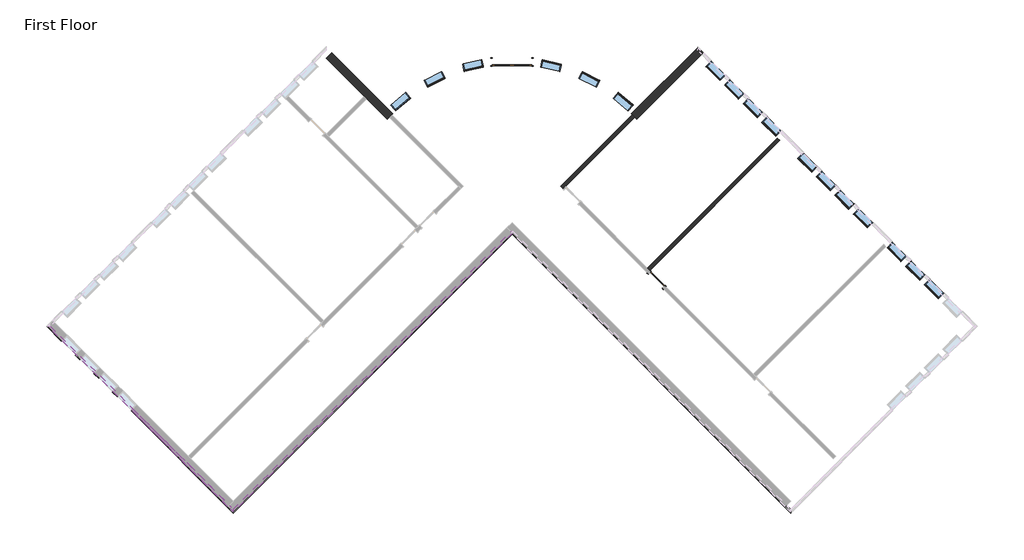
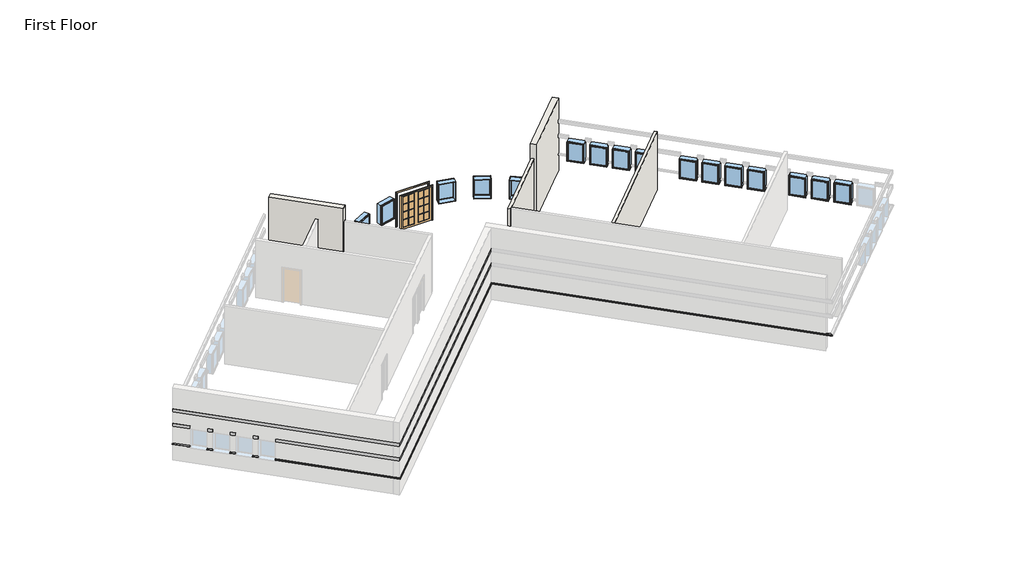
# One storey, part 2 of 3: 17 windows, 7 proxies, 4 walls, 2 doors.
"""IFC4 building model written with IfcOpenShell, lengths in millimetres."""

from ifc_helpers import new_model, si_unit, frame, origin, origin_with_axes, place, context, project, spatial, polyline, circle_curve, outline, extrude, faceted_brep, transform, mapped, element, save
from ifc_brep_helpers import plane_surface, cylinder_surface, revolved_surface, advanced_brep
from components import door_0a477ef8, door_5f5b55da, window_15c49d37, window_0e2fc6ce

model = new_model("IFC4")

# Units and contexts
model_context = context("Model", 3, world=origin())
ifc_project = project(units=[si_unit("LENGTHUNIT", "METRE", prefix="MILLI")], contexts=[model_context])

# Site, building, storey
site = spatial("IfcSite", under=ifc_project)
building = spatial("IfcBuilding", under=site)
storey = spatial("IfcBuildingStorey", under=building, Name="First Floor", Elevation=0.0)

# Proxies
placement = place(None, origin())
element("IfcBuildingElementProxy", 1, Name="Wall Sweeps", at=placement, inside=storey, context=model_context, shape_type="Brep", body=[
    faceted_brep([(10063.54045, -9848.8216726, 1085.85), (10063.54045, -9979.0353863, 1085.85), (10063.54045, -10028.426795, 1041.4), (10063.54045, -10028.426795, 1016.0), (10063.54045, -9848.8216726, 1016.0), (-2868.0283643, 3082.7471418, 1085.85), (-2868.0283643, 3082.7471418, 1016.0), (-2868.0283643, 2903.1420194, 1016.0), (-2868.0283643, 2903.1420194, 1041.4), (-2868.0283643, 2952.533428, 1085.85), (9879.4451996, -9664.7264221, 1085.85), (9879.4451996, -9664.7264221, 1016.0)], [[[0, 1, 2, 3, 4]], [[5, 6, 7, 8, 9]], [[1, 0, 10, 5, 9]], [[2, 1, 9, 8]], [[3, 2, 8, 7]], [[4, 3, 7, 6, 11]], [[0, 4, 11, 6, 5, 10]]]),
])
element("IfcBuildingElementProxy", 2, Name="Wall Sweeps", at=placement, inside=storey, context=model_context, shape_type="Brep", body=[
    faceted_brep([(-2868.0283643, 3082.7471418, 1085.85), (-2868.0283643, 2952.533428, 1085.85), (-2868.0283643, 2903.1420194, 1041.4), (-2868.0283643, 2903.1420194, 1016.0), (-2868.0283643, 3082.7471418, 1016.0), (-15799.5971786, -9848.8216726, 1085.85), (-15799.5971786, -9848.8216726, 1016.0), (-15799.5971786, -10028.426795, 1016.0), (-15799.5971786, -10028.426795, 1041.4), (-15799.5971786, -9979.0353863, 1085.85), (-2933.1352212, 3017.6402849, 1085.85), (-2933.1352212, 3017.6402849, 1016.0)], [[[0, 1, 2, 3, 4]], [[5, 6, 7, 8, 9]], [[1, 0, 10, 5, 9]], [[2, 1, 9, 8]], [[3, 2, 8, 7]], [[4, 3, 7, 6, 11]], [[0, 4, 11, 6, 5, 10]]]),
])
element("IfcBuildingElementProxy", 3, Name="Wall Sweeps", at=placement, inside=storey, context=model_context, shape_type="Brep", body=[
    faceted_brep([(-2868.0283643, 2952.533428, 2336.8), (-2868.0283643, 2952.533428, 2133.6), (-2868.0283643, 3082.7471418, 2133.6), (-2868.0283643, 3082.7471418, 2336.8), (-15799.5971786, -9979.0353863, 2336.8), (-15799.5971786, -9848.8216726, 2336.8), (-15799.5971786, -9848.8216726, 2133.6), (-15799.5971786, -9979.0353863, 2133.6), (-2933.1352212, 3017.6402849, 2133.6), (-2933.1352212, 3017.6402849, 2336.8)], [[[0, 1, 2, 3]], [[4, 5, 6, 7]], [[1, 0, 4, 7]], [[2, 1, 7, 6, 8]], [[3, 2, 8, 6, 5, 9]], [[0, 3, 9, 5, 4]]]),
])
element("IfcBuildingElementProxy", 4, Name="Wall Sweeps", at=placement, inside=storey, context=model_context, shape_type="Brep", body=[
    faceted_brep([(-2868.0283643, 2952.533428, 3251.2), (-2868.0283643, 2952.533428, 3048.0), (-2868.0283643, 3082.7471418, 3048.0), (-2868.0283643, 3082.7471418, 3251.2), (-15799.5971786, -9979.0353863, 3251.2), (-15799.5971786, -9848.8216726, 3251.2), (-15799.5971786, -9848.8216726, 3048.0), (-15799.5971786, -9979.0353863, 3048.0), (-2933.1352212, 3017.6402849, 3048.0), (-2933.1352212, 3017.6402849, 3251.2)], [[[0, 1, 2, 3]], [[4, 5, 6, 7]], [[1, 0, 4, 7]], [[2, 1, 7, 6, 8]], [[3, 2, 8, 6, 5, 9]], [[0, 3, 9, 5, 4]]]),
])
element("IfcBuildingElementProxy", 5, Name="Wall Sweeps", at=placement, inside=storey, context=model_context, shape_type="Brep", body=[
    faceted_brep([(-15799.5971786, -9848.8216726, 1085.85), (-15799.5971786, -9979.0353863, 1085.85), (-15799.5971786, -10028.426795, 1041.4), (-15799.5971786, -10028.426795, 1016.0), (-15799.5971786, -9848.8216726, 1016.0), (-20459.2275735, -5189.1912777, 1085.85), (-20459.2275735, -5189.1912777, 1016.0), (-20524.3344303, -5254.2981346, 1016.0), (-20549.0301347, -5278.993839, 1016.0), (-20549.0301347, -5278.993839, 1041.4), (-20524.3344303, -5254.2981346, 1085.85), (-15983.6924291, -9664.7264221, 1085.85), (-15983.6924291, -9664.7264221, 1016.0)], [[[0, 1, 2, 3, 4]], [[5, 6, 7, 8, 9, 10]], [[1, 0, 11, 5, 10]], [[2, 1, 10, 9]], [[3, 2, 9, 8]], [[4, 3, 8, 7, 6, 12]], [[0, 4, 12, 6, 5, 11]]]),
    faceted_brep([(-21105.8060142, -4542.612837, 1085.85), (-21170.9128711, -4607.7196939, 1085.85), (-21195.6085754, -4632.4153982, 1041.4), (-21195.6085754, -4632.4153982, 1016.0), (-21170.9128711, -4607.7196939, 1016.0), (-21105.8060142, -4542.612837, 1016.0), (-21321.3321611, -4327.0866901, 1085.85), (-21321.3321611, -4327.0866901, 1016.0), (-21386.439018, -4392.193547, 1016.0), (-21411.1347223, -4416.8892513, 1016.0), (-21411.1347223, -4416.8892513, 1041.4), (-21386.439018, -4392.193547, 1085.85)], [[[0, 1, 2, 3, 4, 5]], [[6, 7, 8, 9, 10, 11]], [[1, 0, 6, 11]], [[2, 1, 11, 10]], [[3, 2, 10, 9]], [[5, 4, 3, 9, 8, 7]], [[0, 5, 7, 6]]]),
    faceted_brep([(-21967.9106018, -3680.5082494, 1085.85), (-22033.0174587, -3745.6151063, 1085.85), (-22057.713163, -3770.3108106, 1041.4), (-22057.713163, -3770.3108106, 1016.0), (-22033.0174587, -3745.6151063, 1016.0), (-21967.9106018, -3680.5082494, 1016.0), (-22183.4367487, -3464.9821025, 1085.85), (-22183.4367487, -3464.9821025, 1016.0), (-22248.5436056, -3530.0889594, 1016.0), (-22273.2393099, -3554.7846637, 1016.0), (-22273.2393099, -3554.7846637, 1041.4), (-22248.5436056, -3530.0889594, 1085.85)], [[[0, 1, 2, 3, 4, 5]], [[6, 7, 8, 9, 10, 11]], [[1, 0, 6, 11]], [[2, 1, 11, 10]], [[3, 2, 10, 9]], [[5, 4, 3, 9, 8, 7]], [[0, 5, 7, 6]]]),
    faceted_brep([(-22830.0151894, -2818.4036618, 1085.85), (-22895.1220463, -2883.5105187, 1085.85), (-22919.8177506, -2908.206223, 1041.4), (-22919.8177506, -2908.206223, 1016.0), (-22895.1220463, -2883.5105187, 1016.0), (-22830.0151894, -2818.4036618, 1016.0), (-23045.5413363, -2602.8775149, 1085.85), (-23045.5413363, -2602.8775149, 1016.0), (-23110.6481932, -2667.9843718, 1016.0), (-23135.3438975, -2692.6800761, 1016.0), (-23135.3438975, -2692.6800761, 1041.4), (-23110.6481932, -2667.9843718, 1085.85)], [[[0, 1, 2, 3, 4, 5]], [[6, 7, 8, 9, 10, 11]], [[1, 0, 6, 11]], [[2, 1, 11, 10]], [[3, 2, 10, 9]], [[5, 4, 3, 9, 8, 7]], [[0, 5, 7, 6]]]),
    faceted_brep([(-23692.119777, -1956.2990742, 1085.85), (-23757.2266339, -2021.405931, 1085.85), (-23781.9223383, -2046.1016354, 1041.4), (-23781.9223383, -2046.1016354, 1016.0), (-23757.2266339, -2021.405931, 1016.0), (-23692.119777, -1956.2990742, 1016.0), (-24290.4293411, -1357.9895101, 1085.85), (-24290.4293411, -1357.9895101, 1016.0), (-24470.0344635, -1357.9895101, 1016.0), (-24470.0344635, -1357.9895101, 1041.4), (-24420.6430549, -1357.9895101, 1085.85)], [[[0, 1, 2, 3, 4, 5]], [[6, 7, 8, 9, 10]], [[1, 0, 6, 10]], [[2, 1, 10, 9]], [[3, 2, 9, 8]], [[5, 4, 3, 8, 7]], [[0, 5, 7, 6]]]),
])
element("IfcBuildingElementProxy", 6, Name="Wall Sweeps", at=placement, inside=storey, context=model_context, shape_type="Brep", body=[
    faceted_brep([(-15799.5971786, -9979.0353863, 2336.8), (-15799.5971786, -9979.0353863, 2133.6), (-15799.5971786, -9848.8216726, 2133.6), (-15799.5971786, -9848.8216726, 2336.8), (-20524.3344303, -5254.2981346, 2336.8), (-20459.2275735, -5189.1912777, 2336.8), (-20459.2275735, -5189.1912777, 2133.6), (-20524.3344303, -5254.2981346, 2133.6), (-16048.799286, -9729.833279, 2336.8), (-16048.799286, -9729.833279, 2133.6), (-15983.6924291, -9664.7264221, 2133.6), (-15983.6924291, -9664.7264221, 2336.8)], [[[0, 1, 2, 3]], [[4, 5, 6, 7]], [[1, 0, 8, 4, 7, 9]], [[2, 1, 9, 7, 6, 10]], [[3, 2, 10, 6, 5, 11]], [[0, 3, 11, 5, 4, 8]]]),
    faceted_brep([(-21170.9128711, -4607.7196939, 2336.8), (-21170.9128711, -4607.7196939, 2133.6), (-21105.8060142, -4542.612837, 2133.6), (-21105.8060142, -4542.612837, 2336.8), (-21386.439018, -4392.193547, 2336.8), (-21321.3321611, -4327.0866901, 2336.8), (-21321.3321611, -4327.0866901, 2133.6), (-21386.439018, -4392.193547, 2133.6)], [[[0, 1, 2, 3]], [[4, 5, 6, 7]], [[1, 0, 4, 7]], [[2, 1, 7, 6]], [[3, 2, 6, 5]], [[0, 3, 5, 4]]]),
    faceted_brep([(-22033.0174587, -3745.6151063, 2336.8), (-22033.0174587, -3745.6151063, 2133.6), (-21967.9106018, -3680.5082494, 2133.6), (-21967.9106018, -3680.5082494, 2336.8), (-22248.5436056, -3530.0889594, 2336.8), (-22183.4367487, -3464.9821025, 2336.8), (-22183.4367487, -3464.9821025, 2133.6), (-22248.5436056, -3530.0889594, 2133.6)], [[[0, 1, 2, 3]], [[4, 5, 6, 7]], [[1, 0, 4, 7]], [[2, 1, 7, 6]], [[3, 2, 6, 5]], [[0, 3, 5, 4]]]),
    faceted_brep([(-22895.1220463, -2883.5105187, 2336.8), (-22895.1220463, -2883.5105187, 2133.6), (-22830.0151894, -2818.4036618, 2133.6), (-22830.0151894, -2818.4036618, 2336.8), (-23110.6481932, -2667.9843718, 2336.8), (-23045.5413363, -2602.8775149, 2336.8), (-23045.5413363, -2602.8775149, 2133.6), (-23110.6481932, -2667.9843718, 2133.6)], [[[0, 1, 2, 3]], [[4, 5, 6, 7]], [[1, 0, 4, 7]], [[2, 1, 7, 6]], [[3, 2, 6, 5]], [[0, 3, 5, 4]]]),
    faceted_brep([(-23757.2266339, -2021.405931, 2336.8), (-23757.2266339, -2021.405931, 2133.6), (-23692.119777, -1956.2990742, 2133.6), (-23692.119777, -1956.2990742, 2336.8), (-24420.6430549, -1357.9895101, 2336.8), (-24290.4293411, -1357.9895101, 2336.8), (-24290.4293411, -1357.9895101, 2133.6), (-24420.6430549, -1357.9895101, 2133.6)], [[[0, 1, 2, 3]], [[4, 5, 6, 7]], [[1, 0, 4, 7]], [[2, 1, 7, 6]], [[3, 2, 6, 5]], [[0, 3, 5, 4]]]),
])
element("IfcBuildingElementProxy", 7, Name="Wall Sweeps", at=placement, inside=storey, context=model_context, shape_type="Brep", body=[
    faceted_brep([(-15799.5971786, -9979.0353863, 3251.2), (-15799.5971786, -9979.0353863, 3048.0), (-15799.5971786, -9848.8216726, 3048.0), (-15799.5971786, -9848.8216726, 3251.2), (-24420.6430549, -1357.9895101, 3251.2), (-24290.4293411, -1357.9895101, 3251.2), (-24290.4293411, -1357.9895101, 3048.0), (-24420.6430549, -1357.9895101, 3048.0), (-16048.799286, -9729.833279, 3251.2), (-16048.799286, -9729.833279, 3048.0), (-15983.6924291, -9664.7264221, 3048.0), (-15983.6924291, -9664.7264221, 3251.2)], [[[0, 1, 2, 3]], [[4, 5, 6, 7]], [[1, 0, 8, 4, 7, 9]], [[2, 1, 9, 7, 6, 10]], [[3, 2, 10, 6, 5, 11]], [[0, 3, 11, 5, 4, 8]]]),
])

# Doors
door_shape = door_0a477ef8(model_context)
element("IfcDoor", 8, ObjectType="Double-Glass 2 : 72\" x 84\"", at=placement, inside=storey, context=model_context, shape_type="MappedRepresentation", body=[
    mapped(door_shape, transform((-2868.7603243, 10905.5717204, 0.0), x_axis=(-0.9999999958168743, -9.146721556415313e-05, 0.0), y_axis=(9.146721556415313e-05, -0.9999999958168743, 0.0), z_axis=(0.0, 0.0, 1.0))),
])
door_2_shape = door_5f5b55da(model_context)
element("IfcDoor", 9, ObjectType="Single-Glass 1 : 36\" x 84\"", at=placement, inside=storey, context=model_context, shape_type="MappedRepresentation", body=[
    mapped(door_2_shape, transform((3846.9581502, 797.271959, 0.0), x_axis=(-0.7071067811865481, 0.7071067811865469, 0.0), y_axis=(-0.7071067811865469, -0.7071067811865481, 0.0), z_axis=(0.0, 0.0, 1.0))),
])

# Walls
element("IfcWall", 10, ObjectType="Exterior - Split Face and CMU on Mtl. Stud", at=placement, inside=storey, context=model_context, shape_type="AdvancedBrep", body=[
    advanced_brep(
    [(2921.9555443, 8244.1131219, 4572.0), (5753.0175119, 11075.1750895, 4572.0), (6002.2196193, 11324.3771969, 4572.0), (5753.0175119, 11573.5793042, 4572.0), (2926.4294954, 8746.9912878, 4572.0), (2677.2250436, 8497.7868359, 4572.0), (2921.9555443, 8244.1131219, 0.0), (5753.0175119, 11075.1750895, 0.0), (6002.2196193, 11324.3771969, 0.0), (6002.2196193, 11324.3771969, 1016.0), (5937.1127624, 11259.27034, 1016.0), (5937.1127624, 11259.27034, 1085.85), (6002.2196193, 11324.3771969, 1085.85), (6002.2196193, 11324.3771969, 2133.6), (5937.1127624, 11259.27034, 2133.6), (5937.1127624, 11259.27034, 2336.8), (6002.2196193, 11324.3771969, 2336.8), (6002.2196193, 11324.3771969, 3048.0), (5937.1127624, 11259.27034, 3048.0), (5937.1127624, 11259.27034, 3251.2), (6002.2196193, 11324.3771969, 3251.2), (5753.0175119, 11573.5793042, 3251.2), (2926.4294954, 8746.9912878, 3251.2), (2861.3220456, 8681.8838379, 3251.2), (2861.3220456, 8681.8838379, 3048.0), (2926.4294954, 8746.9912878, 3048.0), (5753.0175119, 11573.5793042, 3048.0), (5753.0175119, 11573.5793042, 2336.8), (2926.4294954, 8746.9912878, 2336.8), (2861.3220456, 8681.8838379, 2336.8), (2861.3220456, 8681.8838379, 2133.6), (2926.4294954, 8746.9912878, 2133.6), (5753.0175119, 11573.5793042, 2133.6), (5753.0175119, 11573.5793042, 1085.85), (2926.4294954, 8746.9912878, 1085.85), (2861.3220456, 8681.8838379, 1085.85), (2861.3220456, 8681.8838379, 1016.0), (2926.4294954, 8746.9912878, 1016.0), (5753.0175119, 11573.5793042, 1016.0), (5753.0175119, 11573.5793042, 0.0), (2926.4294954, 8746.9912878, 0.0), (2677.2250436, 8497.7868359, 0.0), (2821.6573727, 8350.8353182, 0.0), (2742.2400511, 8432.5881297, 0.0), (5818.1243688, 11508.4724474, 0.0), (2712.9543912, 8462.145299, 0.0), (5753.0175119, 11443.3655905, 1085.85), (2926.3399919, 8616.6880705, 1085.85), (2926.3399919, 8616.6880705, 1016.0), (5753.0175119, 11443.3655905, 1016.0), (2926.3399919, 8616.6880705, 2133.6), (5753.0175119, 11443.3655905, 2133.6), (2926.3399919, 8616.6880705, 2336.8), (5753.0175119, 11443.3655905, 2336.8), (2926.3399919, 8616.6880705, 3048.0), (5753.0175119, 11443.3655905, 3048.0), (2926.3399919, 8616.6880705, 3251.2), (5753.0175119, 11443.3655905, 3251.2)],
    [
        (0, 1),
        (1, 2),
        (2, 3),
        (3, 4),
        (4, 5),
        (5, 0, circle_curve(frame((-2868.0283643, 2903.1420194, 4572.0), z_axis=(0.0, 0.0, -1.0), x_axis=(1.0, 0.0, 0.0)), 7877.175)),
        (6, 7),
        (7, 8),
        (8, 9),
        (9, 10),
        (10, 11),
        (11, 12),
        (12, 13),
        (13, 14),
        (14, 15),
        (15, 16),
        (16, 17),
        (17, 18),
        (18, 19),
        (19, 20),
        (20, 2),
        (0, 6),
        (3, 21),
        (21, 22),
        (22, 23),
        (23, 24),
        (24, 25),
        (25, 26),
        (26, 27),
        (27, 28),
        (28, 29),
        (29, 30),
        (30, 31),
        (31, 32),
        (32, 33),
        (33, 34),
        (34, 35),
        (35, 36),
        (36, 37),
        (37, 38),
        (38, 39),
        (39, 40),
        (40, 41),
        (41, 5),
        (6, 42, circle_curve(frame((-2868.0283643, 2903.1420194, 0.0), z_axis=(0.0, 0.0, 1.0), x_axis=(1.0, 0.0, 0.0)), 7877.175)),
        (42, 43, circle_curve(frame((-2868.0283643, 2903.1420194, 0.0), z_axis=(0.0, 0.0, 1.0), x_axis=(1.0, 0.0, 0.0)), 7877.1750053)),
        (43, 44),
        (44, 8),
        (20, 21),
        (44, 39),
        (38, 9),
        (12, 33),
        (32, 13),
        (16, 27),
        (26, 17),
        (43, 45, circle_curve(frame((-2868.0283643, 2903.1420194, 0.0), z_axis=(0.0, 0.0, 1.0), x_axis=(1.0, 0.0, 0.0)), 7877.175)),
        (45, 41, circle_curve(frame((-2868.0283643, 2903.1420194, 0.0), z_axis=(0.0, 0.0, 1.0), x_axis=(1.0, 0.0, 0.0)), 7877.175)),
        (46, 47),
        (47, 35, circle_curve(frame((-2868.0283643, 2903.1420194, 1085.85), z_axis=(0.0, 0.0, 1.0), x_axis=(0.6844196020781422, 0.7290883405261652, 0.0)), 8137.525)),
        (11, 46),
        (48, 49),
        (49, 10),
        (36, 48, circle_curve(frame((-2868.0283643, 2903.1420194, 1016.0), z_axis=(0.0, 0.0, -1.0), x_axis=(0.6844196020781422, 0.7290883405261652, 0.0)), 8137.525)),
        (47, 48),
        (46, 49),
        (50, 51),
        (51, 14),
        (30, 50, circle_curve(frame((-2868.0283643, 2903.1420194, 2133.6), z_axis=(0.0, 0.0, -1.0), x_axis=(0.6844196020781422, 0.7290883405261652, 0.0)), 8137.525)),
        (52, 50),
        (29, 52, circle_curve(frame((-2868.0283643, 2903.1420194, 2336.8), z_axis=(0.0, 0.0, -1.0), x_axis=(0.6844196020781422, 0.7290883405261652, 0.0)), 8137.525)),
        (53, 52),
        (15, 53),
        (53, 51),
        (54, 55),
        (55, 18),
        (24, 54, circle_curve(frame((-2868.0283643, 2903.1420194, 3048.0), z_axis=(0.0, 0.0, -1.0), x_axis=(-0.7040995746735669, 0.7101012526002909, 0.0)), 8137.525)),
        (56, 54),
        (23, 56, circle_curve(frame((-2868.0283643, 2903.1420194, 3251.2), z_axis=(0.0, 0.0, -1.0), x_axis=(-0.7040995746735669, 0.7101012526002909, 0.0)), 8137.525)),
        (57, 56),
        (19, 57),
        (57, 55),
    ],
    [
        plane_surface(frame((5877.6185656, 11199.7761432, 4572.0), z_axis=(0.0, 0.0, 1.0), x_axis=(-0.707106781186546, 0.7071067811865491, 0.0))),
        plane_surface(frame((2984.8535626, 8307.0111402, 0.0), z_axis=(0.707106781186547, -0.7071067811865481, 0.0), x_axis=(0.7071067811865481, 0.707106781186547, 0.0))),
        plane_surface(frame((2735.6514552, 8556.2132476, 0.0), z_axis=(-0.707106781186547, 0.7071067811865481, 0.0), x_axis=(-0.7071067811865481, -0.707106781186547, 0.0))),
        plane_surface(frame((3050.2065213, 8372.3640989, 0.0), z_axis=(0.0, 0.0, -1.0000000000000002), x_axis=(-0.7071067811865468, 0.7071067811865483, 0.0))),
        plane_surface(frame((5753.0175119, 11573.5793042, 0.0), z_axis=(0.7071067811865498, 0.7071067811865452, 0.0), x_axis=(-0.7071067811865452, 0.7071067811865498, 0.0))),
        plane_surface(frame((0.0, 0.0, 0.0), z_axis=(0.0, 0.0, -1.0), x_axis=(1.0, 0.0, 0.0))),
        revolved_surface(polyline([(5009.146635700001, 2903.1420194, 0.0), (5009.146635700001, 2903.1420194, 4572.0)]), (-2868.0283643, 2903.1420194, 0.0), (0.0, 0.0, -1.0)),
        plane_surface(frame((-2868.0283643, 2903.1420194, 1085.85), z_axis=(0.0, 0.0, -1.0), x_axis=(0.6844196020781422, 0.7290883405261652, 0.0))),
        plane_surface(frame((-2868.0283643, 2903.1420194, 1016.0), z_axis=(0.0, 0.0, 1.0), x_axis=(0.6844196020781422, 0.7290883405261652, 0.0))),
        cylinder_surface(frame((-2868.0283643, 2903.1420194, 1016.0), z_axis=(0.0, 0.0, -1.0), x_axis=(0.6844196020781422, 0.7290883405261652, 0.0)), 8137.525),
        plane_surface(frame((2926.3399919, 8616.6880705, 1016.0), z_axis=(-0.7071067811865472, 0.7071067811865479, 0.0), x_axis=(0.7071067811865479, 0.7071067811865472, 0.0))),
        plane_surface(frame((5753.0175119, 11443.3655905, 1016.0), z_axis=(0.7071067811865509, 0.7071067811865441, 0.0), x_axis=(0.7071067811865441, -0.7071067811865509, 0.0))),
        plane_surface(frame((-2868.0283643, 2903.1420194, 2133.6), z_axis=(0.0, 0.0, 1.0), x_axis=(0.6844196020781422, 0.7290883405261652, 0.0))),
        cylinder_surface(frame((-2868.0283643, 2903.1420194, 2133.6), z_axis=(0.0, 0.0, -1.0), x_axis=(0.6844196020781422, 0.7290883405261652, 0.0)), 8137.525),
        plane_surface(frame((-2868.0283643, 2903.1420194, 2336.8), z_axis=(0.0, 0.0, -1.0), x_axis=(0.6844196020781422, 0.7290883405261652, 0.0))),
        plane_surface(frame((2926.3399919, 8616.6880705, 2133.6), z_axis=(-0.707106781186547, 0.707106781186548, 0.0), x_axis=(0.707106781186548, 0.707106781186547, 0.0))),
        plane_surface(frame((5753.0175119, 11443.3655905, 2133.6), z_axis=(0.7071067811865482, 0.7071067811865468, 0.0), x_axis=(0.7071067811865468, -0.7071067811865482, 0.0))),
        plane_surface(frame((-2868.0283643, 2903.1420194, 3048.0), z_axis=(0.0, 0.0, 1.0), x_axis=(-0.7040995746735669, 0.7101012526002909, 0.0))),
        cylinder_surface(frame((-2868.0283643, 2903.1420194, 3048.0), z_axis=(0.0, 0.0, -1.0), x_axis=(-0.7040995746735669, 0.7101012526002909, 0.0)), 8137.525),
        plane_surface(frame((-2868.0283643, 2903.1420194, 3251.2), z_axis=(0.0, 0.0, -1.0), x_axis=(-0.7040995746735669, 0.7101012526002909, 0.0))),
        plane_surface(frame((2926.3399919, 8616.6880705, 3048.0), z_axis=(-0.707106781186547, 0.7071067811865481, 0.0), x_axis=(0.7071067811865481, 0.707106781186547, 0.0))),
        plane_surface(frame((5753.0175119, 11443.3655905, 3048.0), z_axis=(0.7071067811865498, 0.7071067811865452, 0.0), x_axis=(0.7071067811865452, -0.7071067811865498, 0.0))),
    ],
    [
        (0, [[1, 2, 3, 4, 5, 6]]),
        (1, [[7, 8, 9, 10, 11, 12, 13, 14, 15, 16, 17, 18, 19, 20, 21, -2, -1, 22]]),
        (2, [[-5, -4, 23, 24, 25, 26, 27, 28, 29, 30, 31, 32, 33, 34, 35, 36, 37, 38, 39, 40, 41, 42, 43, 44]]),
        (3, [[-8, -7, 45, 46, 47, 48]]),
        (4, [[-3, -21, 49, -23]]),
        (4, [[-48, 50, -41, 51, -9]]),
        (4, [[52, -35, 53, -13]]),
        (4, [[54, -29, 55, -17]]),
        (5, [[-43, -42, -50, -47, 56, 57]]),
        (6, [[-6, -44, -57, -56, -46, -45, -22]]),
        (7, [[58, 59, -37, -36, -52, -12, 60]]),
        (8, [[61, 62, -10, -51, -40, -39, 63]]),
        (9, [[64, -63, -38, -59]]),
        (10, [[-58, 65, -61, -64]]),
        (11, [[-65, -60, -11, -62]]),
        (12, [[66, 67, -14, -53, -34, -33, 68]]),
        (13, [[69, -68, -32, 70]]),
        (14, [[71, -70, -31, -30, -54, -16, 72]]),
        (15, [[-66, -69, -71, 73]]),
        (16, [[-73, -72, -15, -67]]),
        (17, [[74, 75, -18, -55, -28, -27, 76]]),
        (18, [[77, -76, -26, 78]]),
        (19, [[79, -78, -25, -24, -49, -20, 80]]),
        (20, [[-74, -77, -79, 81]]),
        (21, [[-81, -80, -19, -75]]),
    ],
),
])
element("IfcWall", 11, ObjectType="Exterior - Split Face and CMU on Mtl. Stud", at=placement, inside=storey, context=model_context, shape_type="AdvancedBrep", body=[
    advanced_brep(
    [(-11489.0742405, 11075.1750895, 4572.0), (-8658.0122729, 8244.1131219, 4572.0), (-8413.2817722, 8497.7868359, 4572.0), (-8662.486224, 8746.9912878, 4572.0), (-11239.8721332, 11324.3771969, 4572.0), (-11489.0742405, 11075.1750895, 0.0), (-9728.9440408, 9315.0448898, 0.0), (-9618.9359033, 9205.0367523, 0.0), (-8658.0122729, 8244.1131219, 0.0), (-8413.2817722, 8497.7868359, 0.0), (-8662.486224, 8746.9912878, 0.0), (-11239.8721332, 11324.3771969, 0.0), (-11239.8721332, 11324.3771969, 1016.0), (-8662.486224, 8746.9912878, 1016.0), (-8597.3787742, 8681.8838379, 1016.0), (-8597.3787742, 8681.8838379, 1085.85), (-8662.486224, 8746.9912878, 1085.85), (-11239.8721332, 11324.3771969, 1085.85), (-11239.8721332, 11324.3771969, 2133.6), (-8662.486224, 8746.9912878, 2133.6), (-8597.3787742, 8681.8838379, 2133.6), (-8597.3787742, 8681.8838379, 2336.8), (-8662.486224, 8746.9912878, 2336.8), (-11239.8721332, 11324.3771969, 2336.8), (-11239.8721332, 11324.3771969, 3048.0), (-8662.486224, 8746.9912878, 3048.0), (-8597.3787742, 8681.8838379, 3048.0), (-8597.3787742, 8681.8838379, 3251.2), (-8662.486224, 8746.9912878, 3251.2), (-11239.8721332, 11324.3771969, 3251.2), (-11304.9789901, 11259.27034, 0.0), (-8478.2967797, 8432.5881297, 0.0), (-11304.9789901, 11259.27034, 3251.2), (-11304.9789901, 11259.27034, 3048.0), (-11304.9789901, 11259.27034, 2336.8), (-11304.9789901, 11259.27034, 2133.6), (-11304.9789901, 11259.27034, 1085.85), (-11304.9789901, 11259.27034, 1016.0), (-8662.3967205, 8616.6880705, 1085.85), (-8662.3967205, 8616.6880705, 1016.0), (-8662.3967205, 8616.6880705, 2336.8), (-8662.3967205, 8616.6880705, 2133.6), (-8662.3967205, 8616.6880705, 3251.2), (-8662.3967205, 8616.6880705, 3048.0)],
    [
        (0, 1),
        (1, 2, circle_curve(frame((-2868.0283643, 2903.1420194, 4572.0), z_axis=(0.0, 0.0, -1.0), x_axis=(1.0, 0.0, 0.0)), 7877.175)),
        (2, 3),
        (3, 4),
        (4, 0),
        (5, 6),
        (6, 7),
        (7, 8),
        (8, 1),
        (0, 5),
        (2, 9),
        (9, 10),
        (10, 11),
        (11, 12),
        (12, 13),
        (13, 14),
        (14, 15),
        (15, 16),
        (16, 17),
        (17, 18),
        (18, 19),
        (19, 20),
        (20, 21),
        (21, 22),
        (22, 23),
        (23, 24),
        (24, 25),
        (25, 26),
        (26, 27),
        (27, 28),
        (28, 29),
        (29, 4),
        (5, 30),
        (30, 31),
        (31, 8, circle_curve(frame((-2868.0283643, 2903.1420194, 0.0), z_axis=(0.0, 0.0, 1.0), x_axis=(1.0, 0.0, 0.0)), 7877.175)),
        (29, 32),
        (32, 33),
        (33, 24),
        (23, 34),
        (34, 35),
        (35, 18),
        (17, 36),
        (36, 37),
        (37, 12),
        (11, 30),
        (9, 31, circle_curve(frame((-2868.0283643, 2903.1420194, 0.0), z_axis=(0.0, 0.0, 1.0), x_axis=(1.0, 0.0, 0.0)), 7877.175)),
        (38, 39),
        (39, 37),
        (36, 38),
        (15, 38, circle_curve(frame((-2868.0283643, 2903.1420194, 1085.85), z_axis=(0.0, 0.0, 1.0), x_axis=(-0.7040995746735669, 0.7101012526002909, 0.0)), 8137.525)),
        (39, 14, circle_curve(frame((-2868.0283643, 2903.1420194, 1016.0), z_axis=(0.0, 0.0, -1.0), x_axis=(-0.7040995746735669, 0.7101012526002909, 0.0)), 8137.525)),
        (40, 41),
        (41, 35),
        (34, 40),
        (41, 20, circle_curve(frame((-2868.0283643, 2903.1420194, 2133.6), z_axis=(0.0, 0.0, -1.0), x_axis=(-0.7120553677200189, 0.7021233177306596, 0.0)), 8137.525)),
        (40, 21, circle_curve(frame((-2868.0283643, 2903.1420194, 2336.8), z_axis=(0.0, 0.0, -1.0), x_axis=(-0.7120553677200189, 0.7021233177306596, 0.0)), 8137.525)),
        (42, 43),
        (43, 33),
        (32, 42),
        (43, 26, circle_curve(frame((-2868.0283643, 2903.1420194, 3048.0), z_axis=(0.0, 0.0, -1.0), x_axis=(-0.7120553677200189, 0.7021233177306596, 0.0)), 8137.525)),
        (42, 27, circle_curve(frame((-2868.0283643, 2903.1420194, 3251.2), z_axis=(0.0, 0.0, -1.0), x_axis=(-0.7120553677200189, 0.7021233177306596, 0.0)), 8137.525)),
    ],
    [
        plane_surface(frame((-8786.2632499, 8372.3640989, 4572.0), z_axis=(0.0, 0.0, 1.0), x_axis=(0.7071067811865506, 0.7071067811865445, 0.0))),
        plane_surface(frame((-11738.2763479, 11324.3771969, 0.0), z_axis=(-0.7071067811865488, -0.7071067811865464, 0.0), x_axis=(0.7071067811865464, -0.7071067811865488, 0.0))),
        plane_surface(frame((-11489.0742405, 11573.5793042, 0.0), z_axis=(0.7071067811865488, 0.7071067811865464, 0.0), x_axis=(-0.7071067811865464, 0.7071067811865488, 0.0))),
        plane_surface(frame((-11613.6752942, 11199.7761432, 0.0), z_axis=(0.0, 0.0, -1.0000000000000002), x_axis=(0.7071067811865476, 0.7071067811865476, 0.0))),
        plane_surface(frame((-24171.4409475, -1607.1916175, 0.0), z_axis=(-0.7071067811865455, 0.7071067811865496, 0.0), x_axis=(0.7071067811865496, 0.7071067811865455, 0.0))),
        plane_surface(frame((0.0, 0.0, 0.0), z_axis=(0.0, 0.0, -1.0), x_axis=(1.0, 0.0, 0.0))),
        revolved_surface(polyline([(5009.146635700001, 2903.1420194, 0.0), (5009.146635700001, 2903.1420194, 4572.0)]), (-2868.0283643, 2903.1420194, 0.0), (0.0, 0.0, -1.0)),
        plane_surface(frame((-11489.0742405, 11443.3655905, 1016.0), z_axis=(0.7071067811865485, 0.7071067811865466, 0.0), x_axis=(0.7071067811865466, -0.7071067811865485, 0.0))),
        plane_surface(frame((-2868.0283643, 2903.1420194, 1085.85), z_axis=(0.0, 0.0, -1.0), x_axis=(-0.7040995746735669, 0.7101012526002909, 0.0))),
        plane_surface(frame((-2868.0283643, 2903.1420194, 1016.0), z_axis=(0.0, 0.0, 1.0), x_axis=(-0.7040995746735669, 0.7101012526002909, 0.0))),
        cylinder_surface(frame((-2868.0283643, 2903.1420194, 1016.0), z_axis=(0.0, 0.0, -1.0), x_axis=(-0.7040995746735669, 0.7101012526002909, 0.0)), 8137.525),
        plane_surface(frame((-11489.0742405, 11443.3655905, 2133.6), z_axis=(0.7071067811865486, 0.7071067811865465, 0.0), x_axis=(0.7071067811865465, -0.7071067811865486, 0.0))),
        plane_surface(frame((-2868.0283643, 2903.1420194, 2133.6), z_axis=(0.0, 0.0, 1.0), x_axis=(-0.7120553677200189, 0.7021233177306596, 0.0))),
        cylinder_surface(frame((-2868.0283643, 2903.1420194, 2133.6), z_axis=(0.0, 0.0, -1.0), x_axis=(-0.7120553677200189, 0.7021233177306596, 0.0)), 8137.525),
        plane_surface(frame((-2868.0283643, 2903.1420194, 2336.8), z_axis=(0.0, 0.0, -1.0), x_axis=(-0.7120553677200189, 0.7021233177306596, 0.0))),
        plane_surface(frame((-11489.0742405, 11443.3655905, 3048.0), z_axis=(0.7071067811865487, 0.7071067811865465, 0.0), x_axis=(0.7071067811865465, -0.7071067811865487, 0.0))),
        plane_surface(frame((-2868.0283643, 2903.1420194, 3048.0), z_axis=(0.0, 0.0, 1.0), x_axis=(-0.7120553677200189, 0.7021233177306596, 0.0))),
        cylinder_surface(frame((-2868.0283643, 2903.1420194, 3048.0), z_axis=(0.0, 0.0, -1.0), x_axis=(-0.7120553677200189, 0.7021233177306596, 0.0)), 8137.525),
        plane_surface(frame((-2868.0283643, 2903.1420194, 3251.2), z_axis=(0.0, 0.0, -1.0), x_axis=(-0.7120553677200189, 0.7021233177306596, 0.0))),
    ],
    [
        (0, [[1, 2, 3, 4, 5]]),
        (1, [[6, 7, 8, 9, -1, 10]]),
        (2, [[-4, -3, 11, 12, 13, 14, 15, 16, 17, 18, 19, 20, 21, 22, 23, 24, 25, 26, 27, 28, 29, 30, 31, 32]]),
        (3, [[-8, -7, -6, 33, 34, 35]]),
        (4, [[-10, -5, -32, 36, 37, 38, -26, 39, 40, 41, -20, 42, 43, 44, -14, 45, -33]]),
        (5, [[-13, -12, 46, -34, -45]]),
        (6, [[-9, -35, -46, -11, -2]]),
        (7, [[47, 48, -43, 49]]),
        (8, [[50, -49, -42, -19, -18]]),
        (9, [[-48, 51, -16, -15, -44]]),
        (10, [[-47, -50, -17, -51]]),
        (11, [[52, 53, -40, 54]]),
        (12, [[-53, 55, -22, -21, -41]]),
        (13, [[-52, 56, -23, -55]]),
        (14, [[-56, -54, -39, -25, -24]]),
        (15, [[57, 58, -37, 59]]),
        (16, [[-58, 60, -28, -27, -38]]),
        (17, [[-57, 61, -29, -60]]),
        (18, [[-61, -59, -36, -31, -30]]),
    ],
),
])
element("IfcWall", 12, ObjectType="Interior - 6 1/8\" Partition (2-hr)", at=placement, inside=storey, context=model_context, shape_type="AdvancedBrep", body=[
    advanced_brep(
    [(-497.4763129, 5031.6982846, 0.0), (-387.4681754, 5141.7064221, 0.0), (2821.6590066, 8350.8336041, 0.0), (2821.6590066, 8350.8336041, 3657.6), (-387.4681754, 5141.7064221, 3657.6), (-497.4763129, 5031.6982846, 3657.6), (-607.4844504, 5141.7064221, 0.0), (-607.4844504, 5141.7064221, 3657.6), (2712.9544089, 8462.1452813, 3657.6), (2712.9544089, 8462.1452813, 0.0)],
    [
        (0, 1),
        (1, 2),
        (2, 3),
        (3, 4),
        (4, 5),
        (5, 0),
        (6, 7),
        (7, 8),
        (8, 9),
        (9, 6),
        (0, 6),
        (9, 2, circle_curve(frame((-2868.0283643, 2903.1420194, 0.0), z_axis=(0.0, 0.0, -1.0), x_axis=(1.0, 0.0, 0.0)), 7877.175)),
        (3, 8, circle_curve(frame((-2868.0283643, 2903.1420194, 3657.6), z_axis=(0.0, 0.0, 1.0), x_axis=(1.0, 0.0, 0.0)), 7877.175)),
        (7, 5),
    ],
    [
        plane_surface(frame((-442.4722441, 5086.7023533, 0.0), z_axis=(0.7071067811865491, -0.7071067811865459, 0.0), x_axis=(0.7071067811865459, 0.7071067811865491, 0.0))),
        plane_surface(frame((-552.4803816, 5196.7104908, 0.0), z_axis=(-0.7071067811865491, 0.7071067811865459, 0.0), x_axis=(-0.7071067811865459, -0.7071067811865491, 0.0))),
        plane_surface(frame((-442.4722441, 5086.7023533, 0.0), z_axis=(0.0, 0.0, -1.0), x_axis=(-0.707106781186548, 0.7071067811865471, 0.0))),
        plane_surface(frame((2947.192033, 8476.3666305, 3657.6), z_axis=(0.0, 0.0, 1.0000000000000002), x_axis=(-0.7071067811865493, 0.7071067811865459, 0.0))),
        plane_surface(frame((12163.7978503, -7629.5758786, 0.0), z_axis=(-0.7071067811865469, -0.7071067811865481, 0.0), x_axis=(0.7071067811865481, -0.7071067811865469, 0.0))),
        cylinder_surface(frame((-2868.0283643, 2903.1420194, 0.0), z_axis=(0.0, 0.0, -1.0), x_axis=(1.0, 0.0, 0.0)), 7877.175),
    ],
    [
        (0, [[1, 2, 3, 4, 5, 6]]),
        (1, [[7, 8, 9, 10]]),
        (2, [[-2, -1, 11, -10, 12]]),
        (3, [[-5, -4, 13, -8, 14]]),
        (4, [[-6, -14, -7, -11]]),
        (5, [[-3, -12, -9, -13]]),
    ],
),
])
element("IfcWall", 13, ObjectType="Interior - 6 1/8\" Partition (2-hr)", at=placement, inside=storey, context=model_context, shape_type="SweptSolid", body=[
    extrude(outline(polyline([(3415.9058564, 1338.3323903), (9452.8830338, 7375.3095676), (9562.8911713, 7265.3014302), (3525.9139939, 1228.3242528), (3415.9058564, 1338.3323903)])), origin_with_axes(), (0.0, 0.0, 1.0), 3657.6),
])

# Windows
window_shape = window_15c49d37(model_context)
element("IfcWindow", 14, ObjectType="Fixed : 36\" x 48\"", at=placement, inside=storey, context=model_context, shape_type="MappedRepresentation", body=[
    mapped(window_shape, transform((-8066.2237793, 9037.6928325, 0.0), x_axis=(-0.7659856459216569, -0.6428576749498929, 0.0), y_axis=(0.6428576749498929, -0.7659856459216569, 0.0), z_axis=(0.0, 0.0, 1.0))),
])
element("IfcWindow", 15, ObjectType="Fixed : 36\" x 48\"", at=placement, inside=storey, context=model_context, shape_type="MappedRepresentation", body=[
    mapped(window_shape, transform((-4714.6266038, 10728.998151, 0.0), x_axis=(-0.9743494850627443, -0.2250401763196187, 0.0), y_axis=(0.2250401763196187, -0.9743494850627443, 0.0), z_axis=(0.0, 0.0, 1.0))),
])
element("IfcWindow", 16, ObjectType="Fixed : 36\" x 48\"", at=placement, inside=storey, context=model_context, shape_type="MappedRepresentation", body=[
    mapped(window_shape, transform((-6490.5147795, 10081.6893252, 0.0), x_axis=(-0.8948935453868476, -0.4462796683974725, 0.0), y_axis=(0.4462796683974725, -0.8948935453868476, 0.0), z_axis=(0.0, 0.0, 1.0))),
])
element("IfcWindow", 17, ObjectType="Fixed : 36\" x 48\"", at=placement, inside=storey, context=model_context, shape_type="MappedRepresentation", body=[
    mapped(window_shape, transform((6554.2698062, 10523.1249026, 0.0), x_axis=(-0.7071067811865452, 0.7071067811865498, 0.0), y_axis=(-0.7071067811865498, -0.7071067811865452, 0.0), z_axis=(0.0, 0.0, 1.0))),
])
element("IfcWindow", 18, ObjectType="Fixed : 36\" x 48\"", at=placement, inside=storey, context=model_context, shape_type="MappedRepresentation", body=[
    mapped(window_shape, transform((7416.3743938, 9661.020315, 0.0), x_axis=(-0.7071067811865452, 0.7071067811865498, 0.0), y_axis=(-0.7071067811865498, -0.7071067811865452, 0.0), z_axis=(0.0, 0.0, 1.0))),
])
element("IfcWindow", 19, ObjectType="Fixed : 36\" x 48\"", at=placement, inside=storey, context=model_context, shape_type="MappedRepresentation", body=[
    mapped(window_shape, transform((8278.4789814, 8798.9157274, 0.0), x_axis=(-0.7071067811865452, 0.7071067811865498, 0.0), y_axis=(-0.7071067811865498, -0.7071067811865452, 0.0), z_axis=(0.0, 0.0, 1.0))),
])
element("IfcWindow", 20, ObjectType="Fixed : 36\" x 48\"", at=placement, inside=storey, context=model_context, shape_type="MappedRepresentation", body=[
    mapped(window_shape, transform((9140.583569, 7936.8111398, 0.0), x_axis=(-0.7071067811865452, 0.7071067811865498, 0.0), y_axis=(-0.7071067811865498, -0.7071067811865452, 0.0), z_axis=(0.0, 0.0, 1.0))),
])
window_2_shape = window_0e2fc6ce(model_context)
element("IfcWindow", 21, ObjectType="Fixed : 36\" x 48\"", at=placement, inside=storey, context=model_context, shape_type="MappedRepresentation", body=[
    mapped(window_2_shape, transform((2271.4327875, 9086.2422995, 0.0), x_axis=(-0.765985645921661, 0.642857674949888, 0.0), y_axis=(-0.642857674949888, -0.765985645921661, 0.0), z_axis=(0.0, 0.0, 1.0))),
])
element("IfcWindow", 22, ObjectType="Fixed : 36\" x 48\"", at=placement, inside=storey, context=model_context, shape_type="MappedRepresentation", body=[
    mapped(window_2_shape, transform((-1095.8037333, 10745.5912454, 0.0), x_axis=(-0.9743494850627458, 0.2250401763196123, 0.0), y_axis=(-0.2250401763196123, -0.9743494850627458, 0.0), z_axis=(0.0, 0.0, 1.0))),
])
element("IfcWindow", 23, ObjectType="Fixed : 36\" x 48\"", at=placement, inside=storey, context=model_context, shape_type="MappedRepresentation", body=[
    mapped(window_2_shape, transform((686.0129721, 10115.1861252, 0.0), x_axis=(-0.8948935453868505, 0.44627966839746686, 0.0), y_axis=(-0.44627966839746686, -0.8948935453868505, 0.0), z_axis=(0.0, 0.0, 1.0))),
])
element("IfcWindow", 24, ObjectType="Fixed : 36\" x 48\"", at=placement, inside=storey, context=model_context, shape_type="MappedRepresentation", body=[
    mapped(window_2_shape, transform((16738.115812, 339.2788968, 0.0), x_axis=(0.7071067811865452, -0.7071067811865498, 0.0), y_axis=(0.7071067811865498, 0.7071067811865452, 0.0), z_axis=(0.0, 0.0, 1.0))),
])
element("IfcWindow", 25, ObjectType="Fixed : 36\" x 48\"", at=placement, inside=storey, context=model_context, shape_type="MappedRepresentation", body=[
    mapped(window_2_shape, transform((15876.0112244, 1201.3834844, 0.0), x_axis=(0.7071067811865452, -0.7071067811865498, 0.0), y_axis=(0.7071067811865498, 0.7071067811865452, 0.0), z_axis=(0.0, 0.0, 1.0))),
])
element("IfcWindow", 26, ObjectType="Fixed : 36\" x 48\"", at=placement, inside=storey, context=model_context, shape_type="MappedRepresentation", body=[
    mapped(window_2_shape, transform((15013.9066368, 2063.488072, 0.0), x_axis=(0.7071067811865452, -0.7071067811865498, 0.0), y_axis=(0.7071067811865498, 0.7071067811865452, 0.0), z_axis=(0.0, 0.0, 1.0))),
])
element("IfcWindow", 27, ObjectType="Fixed : 36\" x 48\"", at=placement, inside=storey, context=model_context, shape_type="MappedRepresentation", body=[
    mapped(window_2_shape, transform((13451.8134959, 3625.5812129, 0.0), x_axis=(0.7071067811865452, -0.7071067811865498, 0.0), y_axis=(0.7071067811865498, 0.7071067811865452, 0.0), z_axis=(0.0, 0.0, 1.0))),
])
element("IfcWindow", 28, ObjectType="Fixed : 36\" x 48\"", at=placement, inside=storey, context=model_context, shape_type="MappedRepresentation", body=[
    mapped(window_2_shape, transform((12589.7089082, 4487.6858006, 0.0), x_axis=(0.7071067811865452, -0.7071067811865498, 0.0), y_axis=(0.7071067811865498, 0.7071067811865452, 0.0), z_axis=(0.0, 0.0, 1.0))),
])
element("IfcWindow", 29, ObjectType="Fixed : 36\" x 48\"", at=placement, inside=storey, context=model_context, shape_type="MappedRepresentation", body=[
    mapped(window_2_shape, transform((11727.6043206, 5349.7903882, 0.0), x_axis=(0.7071067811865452, -0.7071067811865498, 0.0), y_axis=(0.7071067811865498, 0.7071067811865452, 0.0), z_axis=(0.0, 0.0, 1.0))),
])
element("IfcWindow", 30, ObjectType="Fixed : 36\" x 48\"", at=placement, inside=storey, context=model_context, shape_type="MappedRepresentation", body=[
    mapped(window_2_shape, transform((10865.499733, 6211.8949758, 0.0), x_axis=(0.7071067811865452, -0.7071067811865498, 0.0), y_axis=(0.7071067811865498, 0.7071067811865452, 0.0), z_axis=(0.0, 0.0, 1.0))),
])

save(model, "model.ifc")
